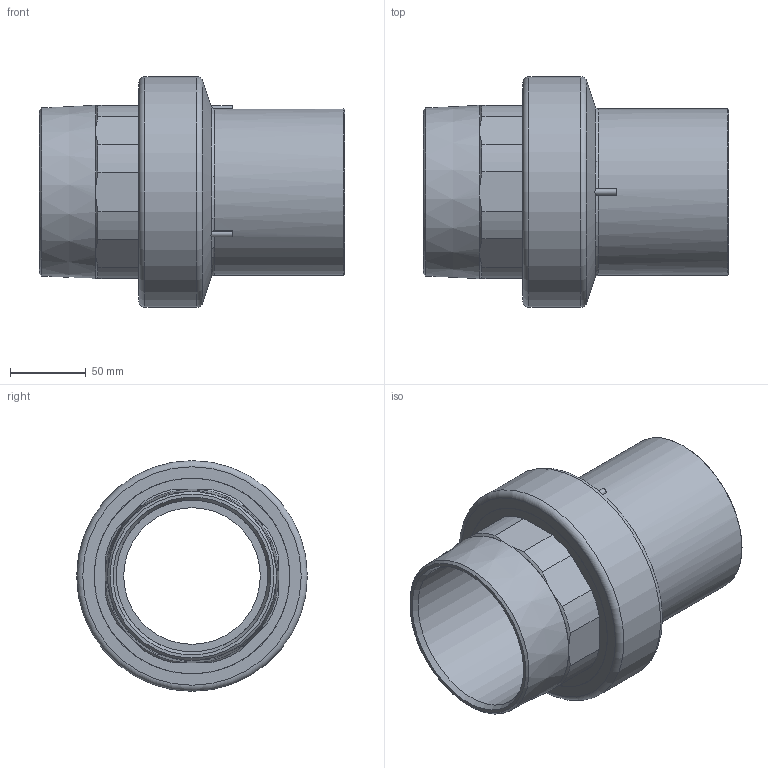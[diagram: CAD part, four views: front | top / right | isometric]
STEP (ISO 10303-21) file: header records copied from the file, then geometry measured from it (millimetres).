
FILE_DESCRIPTION(/* description */ ('Unknown'),/* implementation_level */ '2;1');
FILE_NAME(/* name */ 'RTOMP110C',/* time_stamp */ '2021-03-01T17:39:44+01:00',/* author */ ('Unknown'),/* organization */ ('Unknown'),/* preprocessor_version */ 'ST-DEVELOPER v16.7',/* originating_system */ 'Solid Edge',/* authorisation */ 'Unknown');
FILE_SCHEMA (('AUTOMOTIVE_DESIGN {1 0 10303 214 3 1 1}'));
Length unit declared in the file: millimetre
Products named in the file (3): RTOMP110C; Parte PE 110; IOM110C
Assembly tree (2 placements, depth 2):
  RTOMP110C
    Parte PE 110
    IOM110C
Bounding box: 201 x 152 x 152 mm (x, y, z)
Volume: 929973.9 mm3; surface area: 225929.1 mm2
Topology: 2 solids, 2 shells, 191 faces, 472 edges, 296 vertices
Faces by surface type: plane 98, cylinder 46, cone 21, bspline 15, torus 11
Full cylindrical faces by diameter (mm): 90 x1, 100 x4, 106 x2, 110 x1, 119 x2, 123.4 x2, 129 x8, 152 x1
Entity records: 6329 total; most frequent: CARTESIAN_POINT 1256, DIRECTION 932, ORIENTED_EDGE 854, EDGE_CURVE 427, AXIS2_PLACEMENT_3D 372, VERTEX_POINT 287, EDGE_LOOP 242, FACE_BOUND 242
